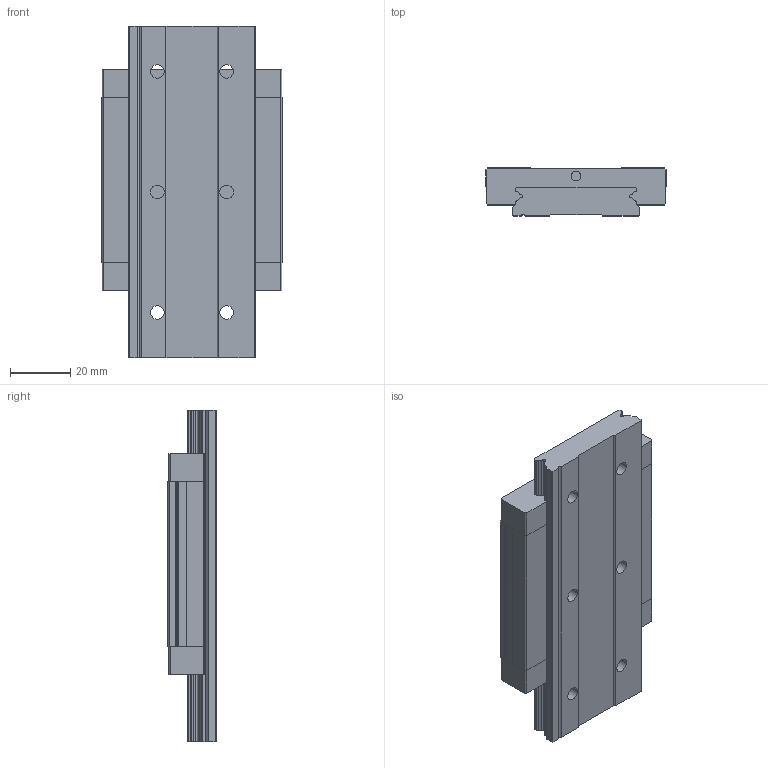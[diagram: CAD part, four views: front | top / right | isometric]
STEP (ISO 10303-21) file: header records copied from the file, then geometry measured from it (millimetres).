
FILE_DESCRIPTION (( 'STEP AP214' ), '1' );
FILE_NAME ('SBMWL 15.STEP', '2020-07-17T02:36:34', ( 'Windows 餌辨濠' ), ( '' ), 'SwSTEP 2.0', 'SolidWorks 2013', '' );
FILE_SCHEMA (( 'AUTOMOTIVE_DESIGN' ));
Length unit declared in the file: millimetre
Products named in the file (4): SBMWL 15; DEFAULT; DEFAULT-1; DEFAULT-2
Assembly tree (4 placements, depth 2):
  SBMWL 15
    DEFAULT
    DEFAULT-1
    DEFAULT-2  x2
Bounding box: 60 x 16 x 110 mm (x, y, z)
Volume: 74767.1 mm3; surface area: 28874 mm2
Topology: 4 solids, 4 shells, 221 faces, 589 edges, 386 vertices
Faces by surface type: cylinder 112, plane 101, cone 8
Entity records: 5985 total; most frequent: DIRECTION 1033, CARTESIAN_POINT 975, ORIENTED_EDGE 946, EDGE_CURVE 473, AXIS2_PLACEMENT_3D 372, VERTEX_POINT 314, VECTOR 289, LINE 289
